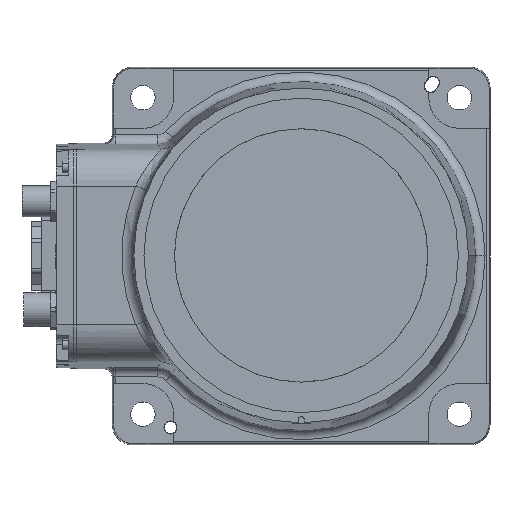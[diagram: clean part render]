
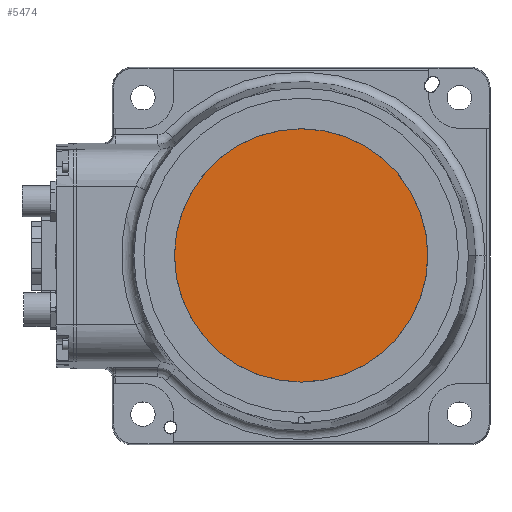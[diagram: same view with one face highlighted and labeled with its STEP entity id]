
A CAD part, top view. The second image highlights one B-rep face of the part: STEP entity #5474.
In plain terms, the highlighted planar face has unit normal (0, 0, 1).
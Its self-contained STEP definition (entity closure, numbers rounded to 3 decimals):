
#81 = EDGE_CURVE ( 'NONE', #5307, #6791, #16383, .T. ) ;
#2908 = DIRECTION ( 'NONE',  ( 1., 0., 0. ) ) ;
#3289 = DIRECTION ( 'NONE',  ( 1., 0., 0. ) ) ;
#5307 = VERTEX_POINT ( 'NONE', #8920 ) ;
#5474 = ADVANCED_FACE ( 'NONE', ( #17308 ), #17628, .T. ) ;
#6791 = VERTEX_POINT ( 'NONE', #10372 ) ;
#7060 = EDGE_CURVE ( 'NONE', #6791, #5307, #13301, .T. ) ;
#7190 = ORIENTED_EDGE ( 'NONE', *, *, #7060, .T. ) ;
#7584 = DIRECTION ( 'NONE',  ( 1., 0., 0. ) ) ;
#8039 = AXIS2_PLACEMENT_3D ( 'NONE', #14352, #12627, #7584 ) ;
#8131 = AXIS2_PLACEMENT_3D ( 'NONE', #19343, #15581, #2908 ) ;
#8920 = CARTESIAN_POINT ( 'NONE',  ( 62.024, 0., 158. ) ) ;
#10372 = CARTESIAN_POINT ( 'NONE',  ( -62.024, 0., 158. ) ) ;
#11214 = DIRECTION ( 'NONE',  ( 0., 0., 1. ) ) ;
#11240 = AXIS2_PLACEMENT_3D ( 'NONE', #14559, #11214, #3289 ) ;
#12053 = EDGE_LOOP ( 'NONE', ( #7190, #14705 ) ) ;
#12627 = DIRECTION ( 'NONE',  ( 0., 0., 1. ) ) ;
#13301 = CIRCLE ( 'NONE', #11240, 62.024 ) ;
#14352 = CARTESIAN_POINT ( 'NONE',  ( 0., 0., 158. ) ) ;
#14559 = CARTESIAN_POINT ( 'NONE',  ( 0., 0., 158. ) ) ;
#14705 = ORIENTED_EDGE ( 'NONE', *, *, #81, .T. ) ;
#15581 = DIRECTION ( 'NONE',  ( 0., 0., 1. ) ) ;
#16383 = CIRCLE ( 'NONE', #8039, 62.024 ) ;
#17308 = FACE_OUTER_BOUND ( 'NONE', #12053, .T. ) ;
#17628 = PLANE ( 'NONE',  #8131 ) ;
#19343 = CARTESIAN_POINT ( 'NONE',  ( 0., -62.024, 158. ) ) ;
